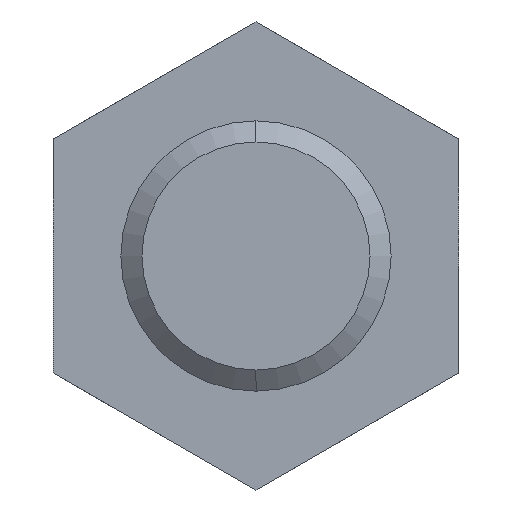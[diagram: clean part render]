
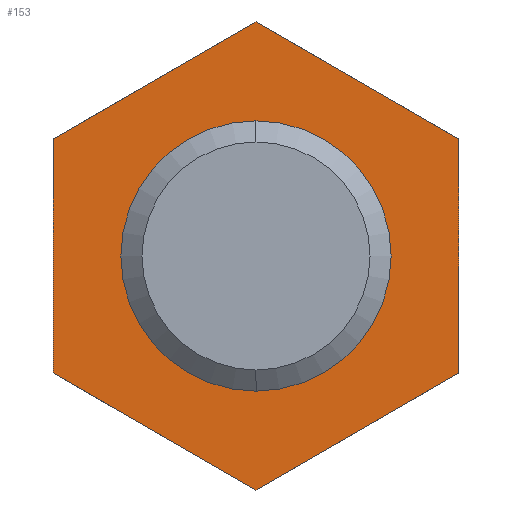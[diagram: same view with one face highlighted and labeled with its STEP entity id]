
A CAD part, front view. The second image highlights one B-rep face of the part: STEP entity #153.
In plain terms, the highlighted planar face has unit normal (0, -1, 0).
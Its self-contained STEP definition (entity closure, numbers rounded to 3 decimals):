
#128 = EDGE_LOOP ( 'NONE', ( #141, #140, #134, #129, #136, #135 ) ) ;
#129 = ORIENTED_EDGE ( 'NONE', *, *, #1656, .T. ) ;
#134 = ORIENTED_EDGE ( 'NONE', *, *, #1629, .T. ) ;
#135 = ORIENTED_EDGE ( 'NONE', *, *, #1674, .T. ) ;
#136 = ORIENTED_EDGE ( 'NONE', *, *, #1654, .T. ) ;
#140 = ORIENTED_EDGE ( 'NONE', *, *, #1611, .T. ) ;
#141 = ORIENTED_EDGE ( 'NONE', *, *, #1568, .T. ) ;
#146 = ORIENTED_EDGE ( 'NONE', *, *, #152, .T. ) ;
#152 = EDGE_CURVE ( 'NONE', #1260, #1263, #1935, .T. ) ;
#153 = ADVANCED_FACE ( 'NONE', ( #1988, #1987 ), #1986, .T. ) ;
#154 = ORIENTED_EDGE ( 'NONE', *, *, #1262, .T. ) ;
#159 = EDGE_LOOP ( 'NONE', ( #154, #146 ) ) ;
#1260 = VERTEX_POINT ( 'NONE', #3929 ) ;
#1262 = EDGE_CURVE ( 'NONE', #1263, #1260, #3928, .T. ) ;
#1263 = VERTEX_POINT ( 'NONE', #3923 ) ;
#1568 = EDGE_CURVE ( 'NONE', #1643, #1582, #4568, .T. ) ;
#1580 = VERTEX_POINT ( 'NONE', #4595 ) ;
#1582 = VERTEX_POINT ( 'NONE', #4653 ) ;
#1608 = VERTEX_POINT ( 'NONE', #4665 ) ;
#1611 = EDGE_CURVE ( 'NONE', #1582, #1608, #4664, .T. ) ;
#1625 = VERTEX_POINT ( 'NONE', #4697 ) ;
#1629 = EDGE_CURVE ( 'NONE', #1608, #1625, #4386, .T. ) ;
#1643 = VERTEX_POINT ( 'NONE', #4759 ) ;
#1654 = EDGE_CURVE ( 'NONE', #1580, #1673, #4747, .T. ) ;
#1656 = EDGE_CURVE ( 'NONE', #1625, #1580, #4743, .T. ) ;
#1673 = VERTEX_POINT ( 'NONE', #4820 ) ;
#1674 = EDGE_CURVE ( 'NONE', #1673, #1643, #4819, .T. ) ;
#1929 = DIRECTION ( 'NONE',  ( 0., 1., 0. ) ) ;
#1930 = CARTESIAN_POINT ( 'NONE',  ( 0., 35., 0. ) ) ;
#1931 = AXIS2_PLACEMENT_3D ( 'NONE', #1930, #1929, #1989 ) ;
#1935 = CIRCLE ( 'NONE', #1931, 8. ) ;
#1981 = DIRECTION ( 'NONE',  ( 1., 0., 0. ) ) ;
#1982 = DIRECTION ( 'NONE',  ( 0., -1., 0. ) ) ;
#1983 = CARTESIAN_POINT ( 'NONE',  ( -8., 35., 0. ) ) ;
#1985 = AXIS2_PLACEMENT_3D ( 'NONE', #1983, #1982, #1981 ) ;
#1986 = PLANE ( 'NONE',  #1985 ) ;
#1987 = FACE_OUTER_BOUND ( 'NONE', #128, .T. ) ;
#1988 = FACE_BOUND ( 'NONE', #159, .T. ) ;
#1989 = DIRECTION ( 'NONE',  ( 0., 0., 1. ) ) ;
#3450 = CARTESIAN_POINT ( 'NONE',  ( -12., 35., 6.928 ) ) ;
#3923 = CARTESIAN_POINT ( 'NONE',  ( 0., 35., 8. ) ) ;
#3924 = DIRECTION ( 'NONE',  ( 0., 0., 1. ) ) ;
#3925 = DIRECTION ( 'NONE',  ( 0., 1., 0. ) ) ;
#3926 = CARTESIAN_POINT ( 'NONE',  ( 0., 35., 0. ) ) ;
#3927 = AXIS2_PLACEMENT_3D ( 'NONE', #3926, #3925, #3924 ) ;
#3928 = CIRCLE ( 'NONE', #3927, 8. ) ;
#3929 = CARTESIAN_POINT ( 'NONE',  ( 0., 35., -8. ) ) ;
#4137 = DIRECTION ( 'NONE',  ( 0., 0., -1. ) ) ;
#4138 = VECTOR ( 'NONE', #4137, 1000. ) ;
#4386 = LINE ( 'NONE', #3450, #4138 ) ;
#4565 = DIRECTION ( 'NONE',  ( -0.866, 0., 0.5 ) ) ;
#4566 = VECTOR ( 'NONE', #4565, 1000. ) ;
#4567 = CARTESIAN_POINT ( 'NONE',  ( 12., 35., 6.928 ) ) ;
#4568 = LINE ( 'NONE', #4567, #4566 ) ;
#4595 = CARTESIAN_POINT ( 'NONE',  ( 0., 35., -13.856 ) ) ;
#4653 = CARTESIAN_POINT ( 'NONE',  ( 0., 35., 13.856 ) ) ;
#4661 = DIRECTION ( 'NONE',  ( -0.866, 0., -0.5 ) ) ;
#4662 = VECTOR ( 'NONE', #4661, 1000. ) ;
#4663 = CARTESIAN_POINT ( 'NONE',  ( 0., 35., 13.856 ) ) ;
#4664 = LINE ( 'NONE', #4663, #4662 ) ;
#4665 = CARTESIAN_POINT ( 'NONE',  ( -12., 35., 6.928 ) ) ;
#4697 = CARTESIAN_POINT ( 'NONE',  ( -12., 35., -6.928 ) ) ;
#4740 = DIRECTION ( 'NONE',  ( 0.866, 0., -0.5 ) ) ;
#4741 = VECTOR ( 'NONE', #4740, 1000. ) ;
#4742 = CARTESIAN_POINT ( 'NONE',  ( -12., 35., -6.928 ) ) ;
#4743 = LINE ( 'NONE', #4742, #4741 ) ;
#4744 = DIRECTION ( 'NONE',  ( 0.866, 0., 0.5 ) ) ;
#4745 = VECTOR ( 'NONE', #4744, 1000. ) ;
#4746 = CARTESIAN_POINT ( 'NONE',  ( 0., 35., -13.856 ) ) ;
#4747 = LINE ( 'NONE', #4746, #4745 ) ;
#4759 = CARTESIAN_POINT ( 'NONE',  ( 12., 35., 6.928 ) ) ;
#4807 = DIRECTION ( 'NONE',  ( 0., 0., 1. ) ) ;
#4808 = VECTOR ( 'NONE', #4807, 1000. ) ;
#4809 = CARTESIAN_POINT ( 'NONE',  ( 12., 35., -6.928 ) ) ;
#4819 = LINE ( 'NONE', #4809, #4808 ) ;
#4820 = CARTESIAN_POINT ( 'NONE',  ( 12., 35., -6.928 ) ) ;
